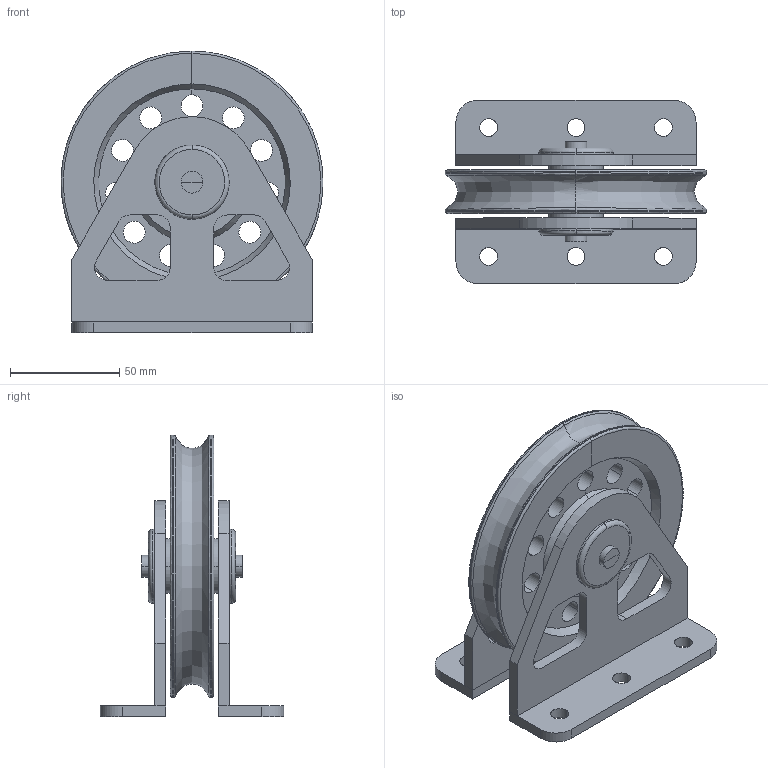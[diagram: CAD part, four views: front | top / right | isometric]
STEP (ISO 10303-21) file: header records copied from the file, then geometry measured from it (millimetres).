
FILE_DESCRIPTION(/* description */ (''),/* implementation_level */ '2;1');
FILE_NAME(/* name */ 'POULIE SIMPLE FIXE D 120',/* time_stamp */ '2005-05-31T09:00:54+02:00',/* author */ (''),/* organization */ (''),/* preprocessor_version */ 'ST-DEVELOPER v8',/* originating_system */ '',/* authorisation */ '');
FILE_SCHEMA (('CONFIG_CONTROL_DESIGN'));
Length unit declared in the file: millimetre
Products named in the file (1): 1
Bounding box: 119.97 x 84 x 129 mm (x, y, z)
Volume: 258447.1 mm3; surface area: 95626.9 mm2
Topology: 13 solids, 13 shells, 218 faces, 505 edges, 297 vertices
Faces by surface type: bspline 218
Entity records: 8174 total; most frequent: CARTESIAN_POINT 5226, ORIENTED_EDGE 988, EDGE_CURVE 494, VERTEX_POINT 311, EDGE_LOOP 274, B_SPLINE_CURVE_WITH_KNOTS 234, ADVANCED_FACE 218, FACE_OUTER_BOUND 218
